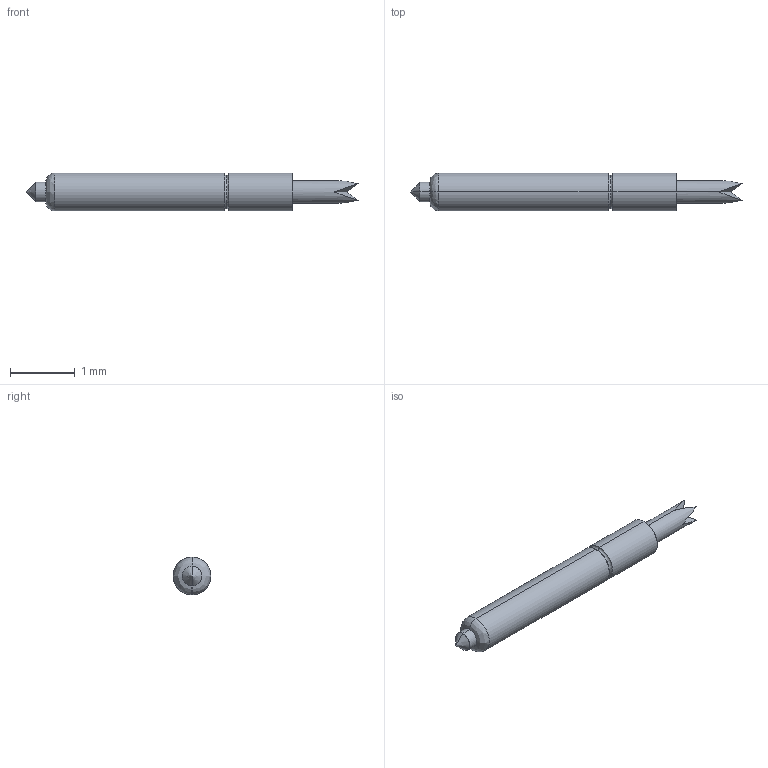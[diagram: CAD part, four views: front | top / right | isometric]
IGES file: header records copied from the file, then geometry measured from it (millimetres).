
Start section: SolidWorks IGES file using analytic representation for surfaces
Global section: file name: Z:\probe solid model mockups\Solidworks models\IGES Files\CSP8-15 IGES files\CSP8-15LB Full.IGS; native system: SolidWorks 2006 by SolidWorks Corporation; preprocessor: SolidWorks 2006 by SolidWorks Corporation; author: tsakatani; date: 080108.152153; units: inch
Bounding box: 5.13 x 0.58 x 0.58 mm (x, y, z)
Surface area: 8.8 mm2 (no closed solid volume)
Topology: 0 solids, 0 shells, 25 faces, 142 edges, 140 vertices
Faces by surface type: bspline 15, revolution 10
